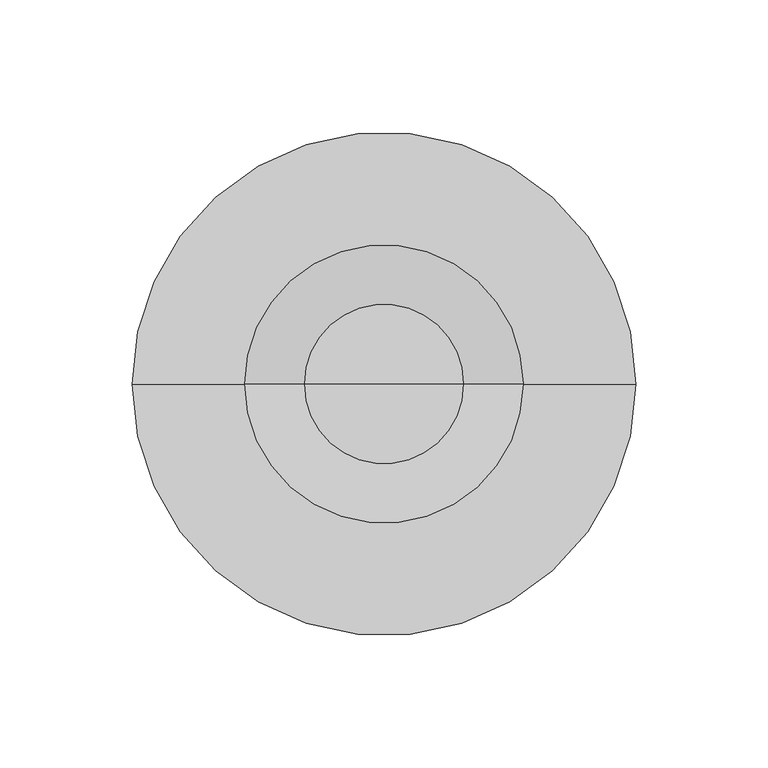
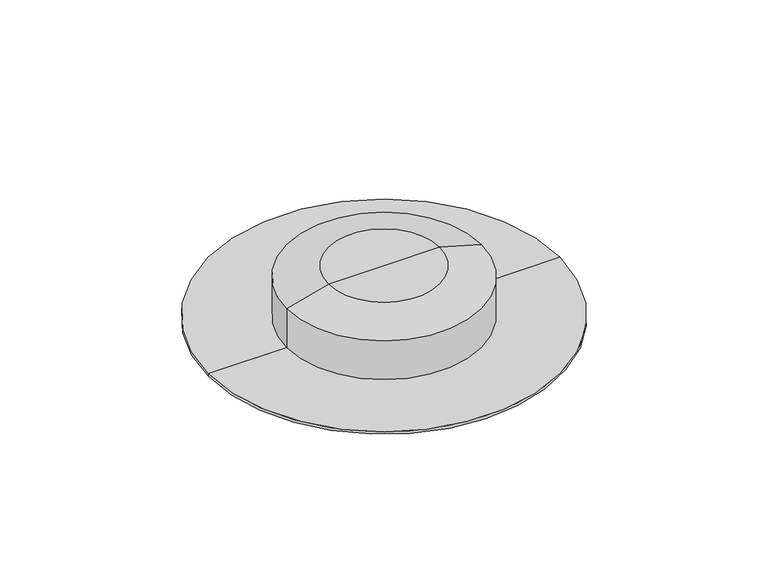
"""IFC4 building model written with IfcOpenShell, lengths in millimetres: light fixture geometry, GENILED_Светильник светодиодный_Сейлинг : Сейлинг 20Вт 3000К 90Ra IP54."""

import ifcopenshell
import ifcopenshell.guid

model = None  # the IFC model being written
_history = None  # IfcOwnerHistory: only IFC2X3 demands one
_inside = {}  # id of a spatial element -> (the spatial element, [elements in it])
_under = {}  # id of a project, library or spatial element -> (it, [spatial elements below it])
_declared = {}  # id of a project -> (the project, [libraries it declares])
_typed = {}  # id of a type object -> (the type object, [elements of that type])
_made_of = {}  # id of a material, layer set ... -> (it, [elements and type objects made of it])


def new_model(schema):
    """Start an empty IFC model of exactly this schema.

    Asked for "IFC4X3", IfcOpenShell would pick the latest addendum, in which some entities
    have other attributes; the version numbers below select the first issue.
    IFC2X3 requires an IfcOwnerHistory on every rooted entity: one is made here for all.
    """
    global model, _history
    if schema == "IFC4X3":
        model = ifcopenshell.file(schema_version=(4, 3, 0, 0))
    else:
        model = ifcopenshell.file(schema=schema)
    _inside.clear()
    _under.clear()
    _declared.clear()
    _typed.clear()
    _made_of.clear()
    _history = None
    if model.schema == "IFC2X3":
        org = make("IfcOrganization", Name="unknown")
        user = make(
            "IfcPersonAndOrganization",
            ThePerson=make("IfcPerson", FamilyName="unknown"),
            TheOrganization=org,
        )
        app = make(
            "IfcApplication",
            ApplicationDeveloper=org,
            Version="unknown",
            ApplicationFullName="unknown",
            ApplicationIdentifier="unknown",
        )
        _history = make(
            "IfcOwnerHistory",
            OwningUser=user,
            OwningApplication=app,
            ChangeAction="ADDED",
            CreationDate=0,
        )
    return model


def make(cls, **values):
    """One entity of the class cls with the attributes given. An attribute that is None is left unset."""
    return model.create_entity(
        cls, **{name: value for name, value in values.items() if value is not None}
    )


def rooted(cls, **values):
    """An entity with a GlobalId (a new one), such as an element, a storey or a relation."""
    return make(cls, GlobalId=ifcopenshell.guid.new(), OwnerHistory=_history, **values)


def si_unit(unit_type, name, prefix=None):
    """IfcSIUnit, for example si_unit("LENGTHUNIT", "METRE", prefix="MILLI")."""
    return make("IfcSIUnit", UnitType=unit_type, Prefix=prefix, Name=name)


def assignment(units):
    """IfcUnitAssignment: the units of a project."""
    return None if units is None else make("IfcUnitAssignment", Units=units)


def point(xyz):
    """IfcCartesianPoint."""
    return None if xyz is None else make("IfcCartesianPoint", Coordinates=xyz)


def direction(xyz):
    """IfcDirection."""
    return None if xyz is None else make("IfcDirection", DirectionRatios=xyz)


def frame(location, z_axis=None, x_axis=None):
    """IfcAxis2Placement3D, a coordinate frame: its origin and axes. An axis left out is left unset."""
    return make(
        "IfcAxis2Placement3D",
        Location=point(location),
        Axis=direction(z_axis),
        RefDirection=direction(x_axis),
    )


def origin():
    """The frame at (0, 0, 0) with its axes left unset."""
    return frame((0.0, 0.0, 0.0))


def place(relative_to, where):
    """IfcLocalPlacement: puts the frame where relative to a parent placement (None: the world)."""
    return make(
        "IfcLocalPlacement", PlacementRelTo=relative_to, RelativePlacement=where
    )


def context(
    kind, dimensions, precision=None, world=None, true_north=None, identifier=None
):
    """IfcGeometricRepresentationContext, for example the 3D "Model" context."""
    return make(
        "IfcGeometricRepresentationContext",
        ContextIdentifier=identifier,
        ContextType=kind,
        CoordinateSpaceDimension=dimensions,
        Precision=precision,
        WorldCoordinateSystem=world,
        TrueNorth=true_north,
    )


def project(units=None, contexts=None):
    """IfcProject with its units and contexts."""
    return rooted(
        "IfcProject",
        Name="project",
        RepresentationContexts=contexts,
        UnitsInContext=assignment(units),
    )


def spatial(cls, under=None, at=None, **own):
    """A site, building, storey or space (cls), placed at a placement, below another one or the project."""
    s = rooted(cls, ObjectPlacement=at, **own)
    if under is not None:
        _under.setdefault(under.id(), (under, []))[1].append(s)
    return s


def polyline(points):
    """IfcPolyline through the points."""
    return make("IfcPolyline", Points=[point(p) for p in points])


def circle_curve(where, radius):
    """IfcCircle in the frame where."""
    return make("IfcCircle", Position=where, Radius=radius)


def shape(context_of_items, identifier, shape_type, items):
    """IfcShapeRepresentation: the items that make up one representation, for example the "Body"."""
    return make(
        "IfcShapeRepresentation",
        ContextOfItems=context_of_items,
        RepresentationIdentifier=identifier,
        RepresentationType=shape_type,
        Items=items,
    )


def source(mapping_origin, context_of_items, identifier, shape_type, items):
    """IfcRepresentationMap: a shape defined once, which mapped items show again and again."""
    return make(
        "IfcRepresentationMap",
        MappingOrigin=mapping_origin,
        MappedRepresentation=shape(context_of_items, identifier, shape_type, items),
    )


def transform(
    local_origin,
    x_axis=None,
    y_axis=None,
    z_axis=None,
    scale=None,
    scale2=None,
    scale3=None,
    uniform=True,
):
    """IfcCartesianTransformationOperator3D, or its non-uniform kind. x_axis, y_axis, z_axis: its Axis1, 2, 3."""
    if uniform:
        return make(
            "IfcCartesianTransformationOperator3D",
            Axis1=direction(x_axis),
            Axis2=direction(y_axis),
            LocalOrigin=point(local_origin),
            Scale=scale,
            Axis3=direction(z_axis),
        )
    return make(
        "IfcCartesianTransformationOperator3DnonUniform",
        Axis1=direction(x_axis),
        Axis2=direction(y_axis),
        LocalOrigin=point(local_origin),
        Scale=scale,
        Axis3=direction(z_axis),
        Scale2=scale2,
        Scale3=scale3,
    )


def mapped(mapping_source, mapping_target):
    """IfcMappedItem: shows the shape of a source again, moved by a transform."""
    return make(
        "IfcMappedItem", MappingSource=mapping_source, MappingTarget=mapping_target
    )


def made_of(thing, what):
    """Note that an element or type object is made of a material, layer set ...; save() writes the relation."""
    if what is not None:
        _made_of.setdefault(what.id(), (what, []))[1].append(thing)
    return thing


def element(
    cls,
    number,
    at=None,
    inside=None,
    cuts=None,
    type_object=None,
    material=None,
    context=None,
    identifier="Body",
    shape_type=None,
    held_by="IfcProductDefinitionShape",
    body=None,
    shapes=None,
    **own,
):
    """One element of the class cls, such as IfcWall. Its Tag is "e" and its number.

    at: its placement. inside: the storey or other place that contains it. cuts: it is an
    opening in that element (IfcRelVoidsElement). A single representation is given by context,
    identifier, shape_type and body (its items); several are given by shapes. held_by: the class
    of the entity that holds the representations. save() writes the other relations.
    """
    e = rooted(cls, Tag="e%d" % number, ObjectPlacement=at, **own)
    if body is not None:
        shapes = [shape(context, identifier, shape_type, body)]
    if shapes is not None:
        e.Representation = make(held_by, Representations=shapes)
    if inside is not None:
        _inside.setdefault(inside.id(), (inside, []))[1].append(e)
    if cuts is not None:
        rooted(
            "IfcRelVoidsElement", RelatingBuildingElement=cuts, RelatedOpeningElement=e
        )
    if type_object is not None:
        _typed.setdefault(type_object.id(), (type_object, []))[1].append(e)
    return made_of(e, material)


def aggregate(whole, parts):
    """IfcRelAggregates: a whole, such as a stair, and the parts it consists of."""
    return rooted("IfcRelAggregates", RelatingObject=whole, RelatedObjects=parts)


def save(model, path):
    """Write the relations noted so far, then the file.

    IfcRelAggregates (storeys below a building ...), IfcRelContainedInSpatialStructure (elements
    in a storey), IfcRelDefinesByType, IfcRelAssociatesMaterial and IfcRelDeclares: one each for
    every whole, place, type object, material and project.
    """
    for whole, parts in _under.values():
        aggregate(whole, parts)
    for where, things in _inside.values():
        rooted(
            "IfcRelContainedInSpatialStructure",
            RelatedElements=things,
            RelatingStructure=where,
        )
    for kind, things in _typed.values():
        rooted("IfcRelDefinesByType", RelatedObjects=things, RelatingType=kind)
    for what, things in _made_of.values():
        rooted("IfcRelAssociatesMaterial", RelatedObjects=things, RelatingMaterial=what)
    for by, libraries in _declared.values():
        rooted("IfcRelDeclares", RelatingContext=by, RelatedDefinitions=libraries)
    model.write(path)


def plane_surface(at):
    """IfcPlane: the flat surface through the origin of the frame at, square to its z axis."""
    return make("IfcPlane", Position=at)


def cylinder_surface(at, radius):
    """IfcCylindricalSurface: all points at the distance radius from the z axis of the frame at."""
    return make("IfcCylindricalSurface", Position=at, Radius=radius)


def revolved_surface(curve, axis_point, axis_direction):
    """IfcSurfaceOfRevolution: the curve turned about the line through axis_point along axis_direction."""
    return make(
        "IfcSurfaceOfRevolution",
        SweptCurve=make("IfcArbitraryOpenProfileDef", ProfileType="CURVE", Curve=curve),
        AxisPosition=make("IfcAxis1Placement", Location=point(axis_point), Axis=direction(axis_direction)),
    )


def advanced_brep(points, edges, surfaces, faces):
    """IfcAdvancedBrep: a solid bounded by faces that lie on surfaces and meet in shared edges.

    An edge is (start, end): straight between two places in points (the first is 0);
    or (start, end, curve); or (start, end, curve, False) where it runs against its curve.
    A face is (place in surfaces, loops), or (place, loops, False) where it looks against
    its surface's normal. A loop lists edges by number (the first is 1), with a minus sign
    where the edge is run from its end to its start. The first loop is the outer one.
    """
    corners = [point(p) for p in points]
    vertices = [make("IfcVertexPoint", VertexGeometry=c) for c in corners]
    made = []
    for start, end, *more in edges:
        made.append(
            make(
                "IfcEdgeCurve",
                EdgeStart=vertices[start],
                EdgeEnd=vertices[end],
                EdgeGeometry=more[0] if more else make("IfcPolyline", Points=[corners[start], corners[end]]),
                SameSense=more[1] if len(more) > 1 else True,
            )
        )
    hull = []
    for where, loops, *sense in faces:
        bounds = []
        for j, loop in enumerate(loops):
            ring = [make("IfcOrientedEdge", EdgeElement=made[abs(k) - 1], Orientation=k > 0) for k in loop]
            bounds.append(
                make(
                    "IfcFaceOuterBound" if j == 0 else "IfcFaceBound",
                    Bound=make("IfcEdgeLoop", EdgeList=ring),
                    Orientation=True,
                )
            )
        hull.append(make("IfcAdvancedFace", Bounds=bounds, FaceSurface=surfaces[where], SameSense=sense[0] if sense else True))
    return make("IfcAdvancedBrep", Outer=make("IfcClosedShell", CfsFaces=hull))


def light_fixture_e1df5a22(model_context):
    return source(origin(), model_context, "Body", "AdvancedBrep", [
        advanced_brep(
        [(30.0, 0.0, 28.5), (-30.0, 0.0, 28.5), (0.0, 0.0, 28.5), (52.5, 0.0, 22.2), (-52.5, 0.0, 22.2), (52.5, 0.0, 0.0), (-52.5, 0.0, 0.0), (95.0, 0.0, 0.0), (-95.0, 0.0, 0.0), (95.0, 0.0, -1.5), (-95.0, 0.0, -1.5), (0.0, 0.0, -1.5)],
        [
            (0, 1, circle_curve(frame((0.0, 0.0, 28.5), z_axis=(0.0, 0.0, 1.0), x_axis=(-1.0, 0.0, 0.0)), 30.0)),
            (1, 2),
            (2, 0),
            (1, 0, circle_curve(frame((0.0, 0.0, 28.5), z_axis=(0.0, 0.0, 1.0), x_axis=(-1.0, 0.0, 0.0)), 30.0)),
            (3, 4, circle_curve(frame((0.0, 0.0, 22.2), z_axis=(0.0, 0.0, 1.0), x_axis=(-1.0, 0.0, 0.0)), 52.5)),
            (4, 1),
            (0, 3),
            (4, 3, circle_curve(frame((0.0, 0.0, 22.2), z_axis=(0.0, 0.0, 1.0), x_axis=(-1.0, 0.0, 0.0)), 52.5)),
            (5, 6, circle_curve(frame((0.0, 0.0, 0.0), z_axis=(0.0, 0.0, 1.0), x_axis=(-1.0, 0.0, 0.0)), 52.5)),
            (6, 4),
            (3, 5),
            (6, 5, circle_curve(frame((0.0, 0.0, 0.0), z_axis=(0.0, 0.0, 1.0), x_axis=(-1.0, 0.0, 0.0)), 52.5)),
            (7, 8, circle_curve(frame((0.0, 0.0, 0.0), z_axis=(0.0, 0.0, 1.0), x_axis=(-1.0, 0.0, 0.0)), 95.0)),
            (8, 6),
            (5, 7),
            (8, 7, circle_curve(frame((0.0, 0.0, 0.0), z_axis=(0.0, 0.0, 1.0), x_axis=(-1.0, 0.0, 0.0)), 95.0)),
            (9, 10, circle_curve(frame((0.0, 0.0, -1.5), z_axis=(0.0, 0.0, 1.0), x_axis=(-1.0, 0.0, 0.0)), 95.0)),
            (10, 8),
            (7, 9),
            (10, 9, circle_curve(frame((0.0, 0.0, -1.5), z_axis=(0.0, 0.0, 1.0), x_axis=(-1.0, 0.0, 0.0)), 95.0)),
            (11, 10),
            (9, 11),
        ],
        [
            plane_surface(frame((0.0, 0.0, 28.5), z_axis=(0.0, 0.0, 1.0), x_axis=(-1.0, 0.0, 0.0))),
            revolved_surface(polyline([(-30.0, 0.0, 28.5), (-52.5, 0.0, 22.2)]), (0.0, 0.0, 68.5), (0.0, 0.0, -1.0)),
            cylinder_surface(frame((0.0, 0.0, 68.5), z_axis=(0.0, 0.0, -1.0), x_axis=(-1.0, 0.0, 0.0)), 52.5),
            plane_surface(frame((0.0, 0.0, 0.0), z_axis=(0.0, 0.0, 1.0), x_axis=(-1.0, 0.0, 0.0))),
            cylinder_surface(frame((0.0, 0.0, 68.5), z_axis=(0.0, 0.0, -1.0), x_axis=(-1.0, 0.0, 0.0)), 95.0),
            plane_surface(frame((0.0, 0.0, -1.5), z_axis=(0.0, 0.0, -1.0), x_axis=(-1.0, 0.0, 0.0))),
        ],
        [
            (0, [[1, 2, 3]]),
            (0, [[4, -3, -2]]),
            (1, [[5, 6, -1, 7]]),
            (1, [[8, -7, -4, -6]]),
            (2, [[9, 10, -5, 11]]),
            (2, [[12, -11, -8, -10]]),
            (3, [[13, 14, -9, 15]]),
            (3, [[16, -15, -12, -14]]),
            (4, [[17, 18, -13, 19]]),
            (4, [[20, -19, -16, -18]]),
            (5, [[21, -17, 22]]),
            (5, [[-22, -20, -21]]),
        ],
    ),
    ])


if __name__ == "__main__":
    model = new_model("IFC4")
    model_context = context("Model", 3, world=origin())
    ifc_project = project(units=[si_unit("LENGTHUNIT", "METRE", prefix="MILLI")], contexts=[model_context])
    site = spatial("IfcSite", under=ifc_project)
    building = spatial("IfcBuilding", under=site)
    placement = place(None, origin())
    light_fixture_shape = light_fixture_e1df5a22(model_context)
    element("IfcLightFixture", 1, ObjectType="GENILED_Светильник светодиодный_Сейлинг : Сейлинг 20Вт 3000К 90Ra IP54", at=placement, inside=building, context=model_context, shape_type="MappedRepresentation", body=[
        mapped(light_fixture_shape, transform((0.0, 0.0, 0.0), x_axis=(1.0, 0.0, 0.0), y_axis=(0.0, 1.0, 0.0), z_axis=(0.0, 0.0, 1.0))),
    ])
    save(model, "model.ifc")
